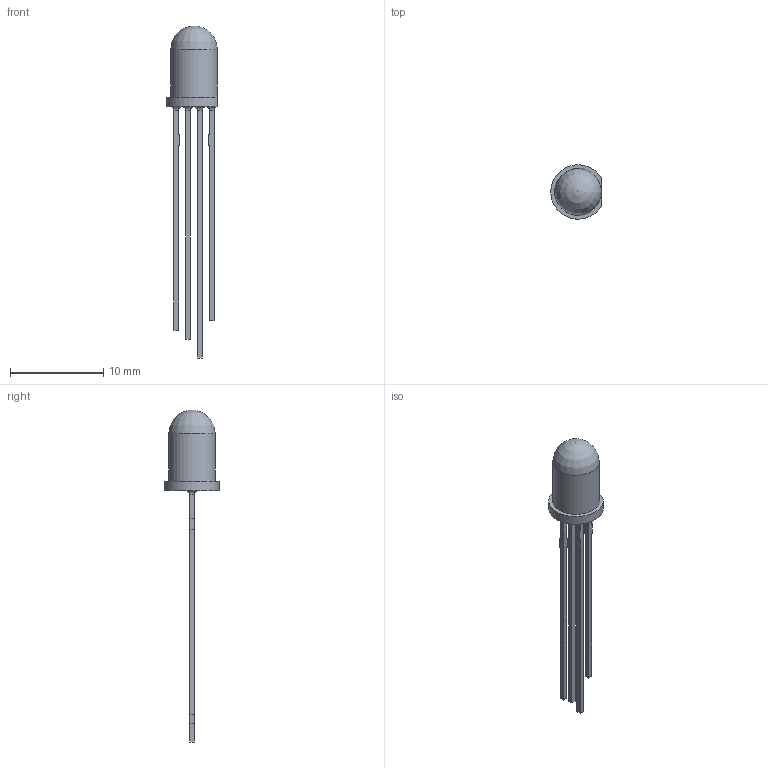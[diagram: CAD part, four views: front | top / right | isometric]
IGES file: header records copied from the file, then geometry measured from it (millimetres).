
Start section: Data from Parasolid IGES Translator 23.1.110, Copyright(c) 2006 Siemens PLM Software. All Rights Reserved.
Global section: file name: 5fb2ece743d9ff15212c937d.iges; native system: By Siemens PLM Incorporated; preprocessor: XPlus GENERIC/IGES 23.1.110; author: Noname; organization: Noname; date: 20201116.211935; units: metre
Bounding box: 5.43 x 5.85 x 35.65 mm (x, y, z)
Surface area: 382.5 mm2 (no closed solid volume)
Topology: 0 solids, 0 shells, 137 faces, 693 edges, 689 vertices
Faces by surface type: extrusion 117, revolution 20
